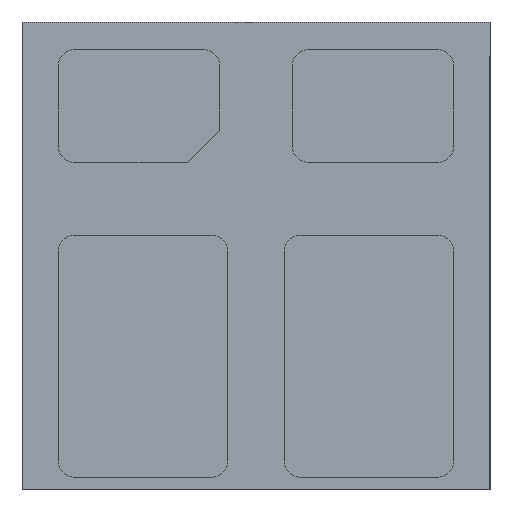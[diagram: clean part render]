
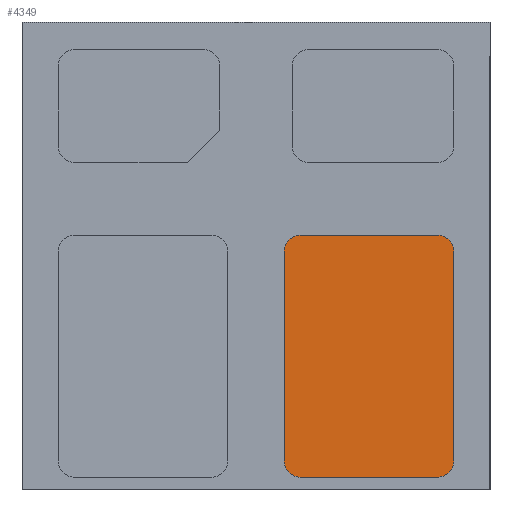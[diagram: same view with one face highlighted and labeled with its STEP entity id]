
A CAD part, front view. The second image highlights one B-rep face of the part: STEP entity #4349.
In plain terms, the highlighted planar face has unit normal (0, -1, 0).
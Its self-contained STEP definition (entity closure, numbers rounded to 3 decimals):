
#27 = VERTEX_POINT ( 'NONE', #5544 ) ;
#151 = EDGE_CURVE ( 'NONE', #1286, #1914, #2135, .T. ) ;
#165 = ORIENTED_EDGE ( 'NONE', *, *, #2007, .T. ) ;
#198 = DIRECTION ( 'NONE',  ( 0., 0., -1. ) ) ;
#270 = CARTESIAN_POINT ( 'NONE',  ( 0.275, -0.065, 0.03 ) ) ;
#593 = ORIENTED_EDGE ( 'NONE', *, *, #4616, .T. ) ;
#605 = CARTESIAN_POINT ( 'NONE',  ( 0.275, -0.065, -1.27 ) ) ;
#714 = DIRECTION ( 'NONE',  ( 0., 0., -1. ) ) ;
#796 = DIRECTION ( 'NONE',  ( 0., 0., -1. ) ) ;
#818 = CARTESIAN_POINT ( 'NONE',  ( 0.275, -0.065, 0.13 ) ) ;
#874 = DIRECTION ( 'NONE',  ( 1., 0., 0. ) ) ;
#917 = VECTOR ( 'NONE', #4146, 1000. ) ;
#920 = EDGE_CURVE ( 'NONE', #27, #1286, #5134, .T. ) ;
#1052 = DIRECTION ( 'NONE',  ( 0., 0., -1. ) ) ;
#1114 = CARTESIAN_POINT ( 'NONE',  ( 0.175, -0.065, -1.27 ) ) ;
#1168 = CARTESIAN_POINT ( 'NONE',  ( 1.125, -0.065, -1.37 ) ) ;
#1224 = EDGE_CURVE ( 'NONE', #1914, #4653, #4393, .T. ) ;
#1286 = VERTEX_POINT ( 'NONE', #1168 ) ;
#1380 = CARTESIAN_POINT ( 'NONE',  ( 1.125, -0.065, 0.13 ) ) ;
#1415 = VECTOR ( 'NONE', #4081, 1000. ) ;
#1535 = FACE_OUTER_BOUND ( 'NONE', #1594, .T. ) ;
#1559 = VERTEX_POINT ( 'NONE', #818 ) ;
#1594 = EDGE_LOOP ( 'NONE', ( #165, #2738, #4334, #593, #2322, #4051, #4951, #3282 ) ) ;
#1608 = AXIS2_PLACEMENT_3D ( 'NONE', #270, #3306, #714 ) ;
#1653 = DIRECTION ( 'NONE',  ( 0., 0., 1. ) ) ;
#1686 = AXIS2_PLACEMENT_3D ( 'NONE', #605, #3622, #1052 ) ;
#1914 = VERTEX_POINT ( 'NONE', #3628 ) ;
#2007 = EDGE_CURVE ( 'NONE', #4653, #3527, #2726, .T. ) ;
#2076 = EDGE_CURVE ( 'NONE', #1559, #4782, #3588, .T. ) ;
#2135 = CIRCLE ( 'NONE', #3216, 0.1 ) ;
#2322 = ORIENTED_EDGE ( 'NONE', *, *, #2743, .T. ) ;
#2372 = PLANE ( 'NONE',  #3297 ) ;
#2583 = CARTESIAN_POINT ( 'NONE',  ( 1.125, -0.065, 0.13 ) ) ;
#2683 = LINE ( 'NONE', #2583, #1415 ) ;
#2698 = VECTOR ( 'NONE', #874, 1000. ) ;
#2726 = CIRCLE ( 'NONE', #4876, 0.1 ) ;
#2738 = ORIENTED_EDGE ( 'NONE', *, *, #3115, .T. ) ;
#2743 = EDGE_CURVE ( 'NONE', #4418, #27, #3428, .T. ) ;
#2801 = DIRECTION ( 'NONE',  ( 0., -1., 0. ) ) ;
#2838 = CARTESIAN_POINT ( 'NONE',  ( 1.225, -0.065, 0.03 ) ) ;
#2976 = CARTESIAN_POINT ( 'NONE',  ( 0.175, -0.065, 0.03 ) ) ;
#3029 = CARTESIAN_POINT ( 'NONE',  ( 0.275, -0.065, -1.37 ) ) ;
#3115 = EDGE_CURVE ( 'NONE', #3527, #1559, #2683, .T. ) ;
#3216 = AXIS2_PLACEMENT_3D ( 'NONE', #3917, #3540, #3465 ) ;
#3222 = VECTOR ( 'NONE', #1653, 1000. ) ;
#3282 = ORIENTED_EDGE ( 'NONE', *, *, #1224, .T. ) ;
#3297 = AXIS2_PLACEMENT_3D ( 'NONE', #5389, #2801, #198 ) ;
#3306 = DIRECTION ( 'NONE',  ( 0., -1., 0. ) ) ;
#3343 = LINE ( 'NONE', #3688, #917 ) ;
#3428 = CIRCLE ( 'NONE', #1686, 0.1 ) ;
#3465 = DIRECTION ( 'NONE',  ( 0., 0., -1. ) ) ;
#3527 = VERTEX_POINT ( 'NONE', #1380 ) ;
#3540 = DIRECTION ( 'NONE',  ( 0., -1., 0. ) ) ;
#3588 = CIRCLE ( 'NONE', #1608, 0.1 ) ;
#3622 = DIRECTION ( 'NONE',  ( 0., -1., 0. ) ) ;
#3628 = CARTESIAN_POINT ( 'NONE',  ( 1.225, -0.065, -1.27 ) ) ;
#3688 = CARTESIAN_POINT ( 'NONE',  ( 0.175, -0.065, 0.03 ) ) ;
#3784 = CARTESIAN_POINT ( 'NONE',  ( 1.225, -0.065, -1.27 ) ) ;
#3796 = DIRECTION ( 'NONE',  ( 0., -1., 0. ) ) ;
#3917 = CARTESIAN_POINT ( 'NONE',  ( 1.125, -0.065, -1.27 ) ) ;
#4051 = ORIENTED_EDGE ( 'NONE', *, *, #920, .T. ) ;
#4081 = DIRECTION ( 'NONE',  ( -1., 0., 0. ) ) ;
#4146 = DIRECTION ( 'NONE',  ( 0., 0., -1. ) ) ;
#4334 = ORIENTED_EDGE ( 'NONE', *, *, #2076, .T. ) ;
#4349 = ADVANCED_FACE ( 'NONE', ( #1535 ), #2372, .T. ) ;
#4393 = LINE ( 'NONE', #3784, #3222 ) ;
#4418 = VERTEX_POINT ( 'NONE', #1114 ) ;
#4616 = EDGE_CURVE ( 'NONE', #4782, #4418, #3343, .T. ) ;
#4653 = VERTEX_POINT ( 'NONE', #2838 ) ;
#4782 = VERTEX_POINT ( 'NONE', #2976 ) ;
#4876 = AXIS2_PLACEMENT_3D ( 'NONE', #5246, #3796, #796 ) ;
#4951 = ORIENTED_EDGE ( 'NONE', *, *, #151, .T. ) ;
#5134 = LINE ( 'NONE', #3029, #2698 ) ;
#5246 = CARTESIAN_POINT ( 'NONE',  ( 1.125, -0.065, 0.03 ) ) ;
#5389 = CARTESIAN_POINT ( 'NONE',  ( 1.125, -0.065, 0.03 ) ) ;
#5544 = CARTESIAN_POINT ( 'NONE',  ( 0.275, -0.065, -1.37 ) ) ;
